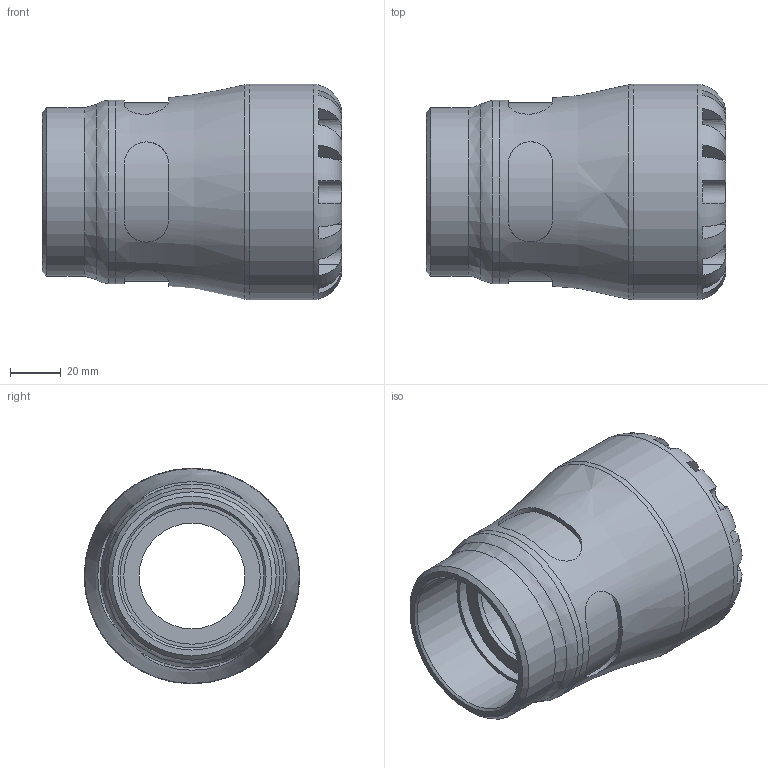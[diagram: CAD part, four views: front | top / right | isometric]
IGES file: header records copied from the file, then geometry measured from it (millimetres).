
Global section: file name: 1003G0050020_1903G0050020.ipt; native system: Autodesk Inventor 2015; preprocessor: unknown; author: KIM; date: 20191029.101422; units: millimetre
Bounding box: 118 x 85 x 85 mm (x, y, z)
Volume: 292736.2 mm3; surface area: 55532.7 mm2
Topology: 1 solids, 1 shells, 104 faces, 270 edges, 174 vertices
Faces by surface type: plane 61, revolution 27, cylinder 15, cone 1
Full cylindrical faces by diameter (mm): 66.3 x1, 72.25 x1, 85 x1
